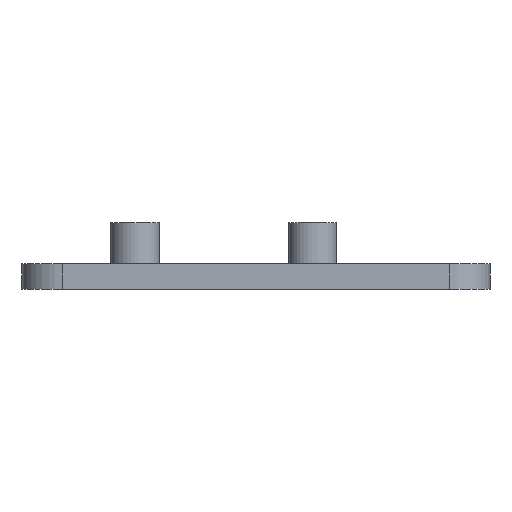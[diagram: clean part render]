
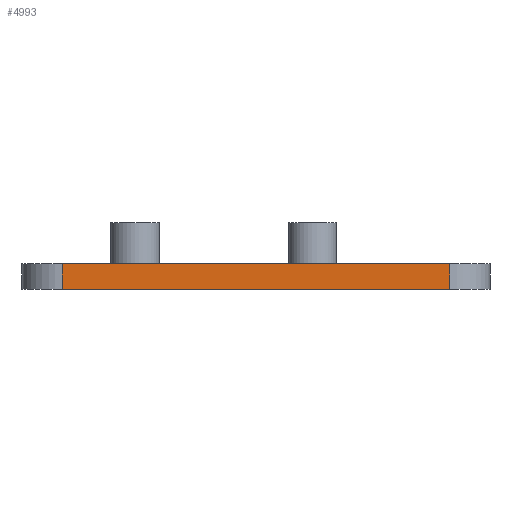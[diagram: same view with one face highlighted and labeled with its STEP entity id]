
A CAD part, left-side view. The second image highlights one B-rep face of the part: STEP entity #4993.
In plain terms, the highlighted planar face has unit normal (-1, 0, 0).
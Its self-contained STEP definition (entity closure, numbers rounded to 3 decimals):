
#44 = PLANE('',#45);
#45 = AXIS2_PLACEMENT_3D('',#46,#47,#48);
#46 = CARTESIAN_POINT('',(0.,0.,0.));
#47 = DIRECTION('',(0.,0.,1.));
#48 = DIRECTION('',(1.,0.,-0.));
#72 = CYLINDRICAL_SURFACE('',#73,5.);
#73 = AXIS2_PLACEMENT_3D('',#74,#75,#76);
#74 = CARTESIAN_POINT('',(-37.,-24.,0.));
#75 = DIRECTION('',(0.,0.,1.));
#76 = DIRECTION('',(0.,-1.,0.));
#100 = PLANE('',#101);
#101 = AXIS2_PLACEMENT_3D('',#102,#103,#104);
#102 = CARTESIAN_POINT('',(0.,0.,3.2));
#103 = DIRECTION('',(0.,0.,1.));
#104 = DIRECTION('',(1.,0.,-0.));
#252 = VERTEX_POINT('',#253);
#253 = CARTESIAN_POINT('',(-42.,24.,0.));
#268 = CYLINDRICAL_SURFACE('',#269,5.);
#269 = AXIS2_PLACEMENT_3D('',#270,#271,#272);
#270 = CARTESIAN_POINT('',(-37.,24.,0.));
#271 = DIRECTION('',(0.,0.,1.));
#272 = DIRECTION('',(-0.,1.,0.));
#280 = EDGE_CURVE('',#252,#281,#283,.T.);
#281 = VERTEX_POINT('',#282);
#282 = CARTESIAN_POINT('',(-42.,-24.,0.));
#283 = SURFACE_CURVE('',#284,(#288,#295),.PCURVE_S1.);
#284 = LINE('',#285,#286);
#285 = CARTESIAN_POINT('',(-42.,29.,0.));
#286 = VECTOR('',#287,1.);
#287 = DIRECTION('',(0.,-1.,0.));
#288 = PCURVE('',#44,#289);
#289 = DEFINITIONAL_REPRESENTATION('',(#290),#294);
#290 = LINE('',#291,#292);
#291 = CARTESIAN_POINT('',(-42.,29.));
#292 = VECTOR('',#293,1.);
#293 = DIRECTION('',(0.,-1.));
#294 = ( GEOMETRIC_REPRESENTATION_CONTEXT(2) 
PARAMETRIC_REPRESENTATION_CONTEXT() REPRESENTATION_CONTEXT('2D SPACE',''
  ) );
#295 = PCURVE('',#296,#301);
#296 = PLANE('',#297);
#297 = AXIS2_PLACEMENT_3D('',#298,#299,#300);
#298 = CARTESIAN_POINT('',(-42.,29.,0.));
#299 = DIRECTION('',(1.,0.,-0.));
#300 = DIRECTION('',(0.,-1.,0.));
#301 = DEFINITIONAL_REPRESENTATION('',(#302),#306);
#302 = LINE('',#303,#304);
#303 = CARTESIAN_POINT('',(0.,0.));
#304 = VECTOR('',#305,1.);
#305 = DIRECTION('',(1.,0.));
#306 = ( GEOMETRIC_REPRESENTATION_CONTEXT(2) 
PARAMETRIC_REPRESENTATION_CONTEXT() REPRESENTATION_CONTEXT('2D SPACE',''
  ) );
#886 = EDGE_CURVE('',#281,#887,#889,.T.);
#887 = VERTEX_POINT('',#888);
#888 = CARTESIAN_POINT('',(-42.,-24.,3.2));
#889 = SURFACE_CURVE('',#890,(#894,#901),.PCURVE_S1.);
#890 = LINE('',#891,#892);
#891 = CARTESIAN_POINT('',(-42.,-24.,0.));
#892 = VECTOR('',#893,1.);
#893 = DIRECTION('',(0.,0.,1.));
#894 = PCURVE('',#72,#895);
#895 = DEFINITIONAL_REPRESENTATION('',(#896),#900);
#896 = LINE('',#897,#898);
#897 = CARTESIAN_POINT('',(-1.571,0.));
#898 = VECTOR('',#899,1.);
#899 = DIRECTION('',(-0.,1.));
#900 = ( GEOMETRIC_REPRESENTATION_CONTEXT(2) 
PARAMETRIC_REPRESENTATION_CONTEXT() REPRESENTATION_CONTEXT('2D SPACE',''
  ) );
#901 = PCURVE('',#296,#902);
#902 = DEFINITIONAL_REPRESENTATION('',(#903),#907);
#903 = LINE('',#904,#905);
#904 = CARTESIAN_POINT('',(53.,0.));
#905 = VECTOR('',#906,1.);
#906 = DIRECTION('',(0.,-1.));
#907 = ( GEOMETRIC_REPRESENTATION_CONTEXT(2) 
PARAMETRIC_REPRESENTATION_CONTEXT() REPRESENTATION_CONTEXT('2D SPACE',''
  ) );
#1062 = VERTEX_POINT('',#1063);
#1063 = CARTESIAN_POINT('',(-42.,24.,3.2));
#1085 = EDGE_CURVE('',#1062,#887,#1086,.T.);
#1086 = SURFACE_CURVE('',#1087,(#1091,#1098),.PCURVE_S1.);
#1087 = LINE('',#1088,#1089);
#1088 = CARTESIAN_POINT('',(-42.,29.,3.2));
#1089 = VECTOR('',#1090,1.);
#1090 = DIRECTION('',(0.,-1.,0.));
#1091 = PCURVE('',#100,#1092);
#1092 = DEFINITIONAL_REPRESENTATION('',(#1093),#1097);
#1093 = LINE('',#1094,#1095);
#1094 = CARTESIAN_POINT('',(-42.,29.));
#1095 = VECTOR('',#1096,1.);
#1096 = DIRECTION('',(0.,-1.));
#1097 = ( GEOMETRIC_REPRESENTATION_CONTEXT(2) 
PARAMETRIC_REPRESENTATION_CONTEXT() REPRESENTATION_CONTEXT('2D SPACE',''
  ) );
#1098 = PCURVE('',#296,#1099);
#1099 = DEFINITIONAL_REPRESENTATION('',(#1100),#1104);
#1100 = LINE('',#1101,#1102);
#1101 = CARTESIAN_POINT('',(0.,-3.2));
#1102 = VECTOR('',#1103,1.);
#1103 = DIRECTION('',(1.,0.));
#1104 = ( GEOMETRIC_REPRESENTATION_CONTEXT(2) 
PARAMETRIC_REPRESENTATION_CONTEXT() REPRESENTATION_CONTEXT('2D SPACE',''
  ) );
#4993 = ADVANCED_FACE('',(#4994),#296,.F.);
#4994 = FACE_BOUND('',#4995,.F.);
#4995 = EDGE_LOOP('',(#4996,#4997,#5018,#5019));
#4996 = ORIENTED_EDGE('',*,*,#280,.F.);
#4997 = ORIENTED_EDGE('',*,*,#4998,.T.);
#4998 = EDGE_CURVE('',#252,#1062,#4999,.T.);
#4999 = SURFACE_CURVE('',#5000,(#5004,#5011),.PCURVE_S1.);
#5000 = LINE('',#5001,#5002);
#5001 = CARTESIAN_POINT('',(-42.,24.,0.));
#5002 = VECTOR('',#5003,1.);
#5003 = DIRECTION('',(0.,0.,1.));
#5004 = PCURVE('',#296,#5005);
#5005 = DEFINITIONAL_REPRESENTATION('',(#5006),#5010);
#5006 = LINE('',#5007,#5008);
#5007 = CARTESIAN_POINT('',(5.,0.));
#5008 = VECTOR('',#5009,1.);
#5009 = DIRECTION('',(0.,-1.));
#5010 = ( GEOMETRIC_REPRESENTATION_CONTEXT(2) 
PARAMETRIC_REPRESENTATION_CONTEXT() REPRESENTATION_CONTEXT('2D SPACE',''
  ) );
#5011 = PCURVE('',#268,#5012);
#5012 = DEFINITIONAL_REPRESENTATION('',(#5013),#5017);
#5013 = LINE('',#5014,#5015);
#5014 = CARTESIAN_POINT('',(1.571,0.));
#5015 = VECTOR('',#5016,1.);
#5016 = DIRECTION('',(0.,1.));
#5017 = ( GEOMETRIC_REPRESENTATION_CONTEXT(2) 
PARAMETRIC_REPRESENTATION_CONTEXT() REPRESENTATION_CONTEXT('2D SPACE',''
  ) );
#5018 = ORIENTED_EDGE('',*,*,#1085,.T.);
#5019 = ORIENTED_EDGE('',*,*,#886,.F.);
